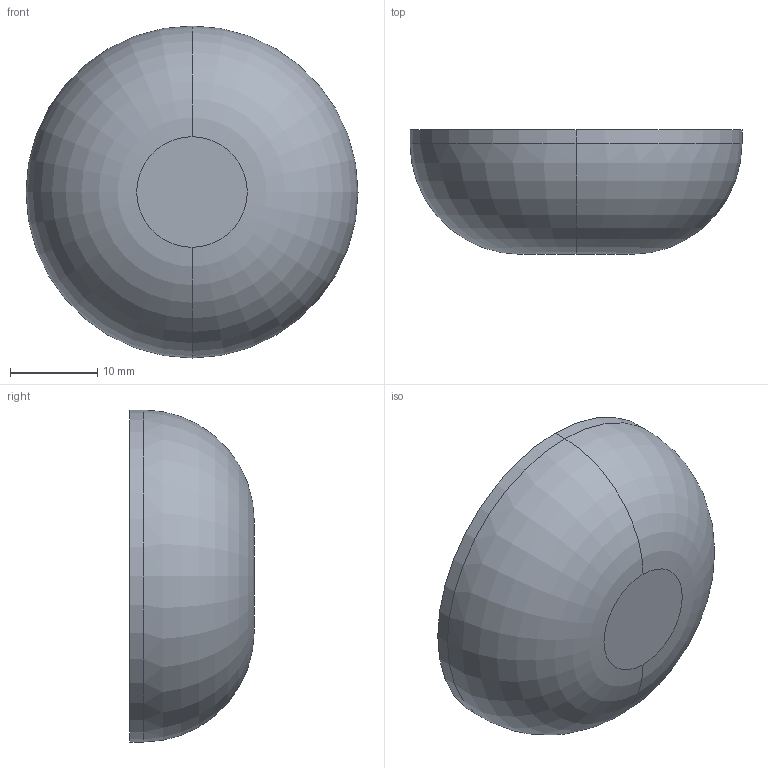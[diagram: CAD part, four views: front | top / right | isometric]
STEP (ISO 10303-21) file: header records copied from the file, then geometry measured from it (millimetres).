
FILE_DESCRIPTION (( 'STEP AP214' ), '1' );
FILE_NAME ('E16W 1.5 REV4.STEP', '2025-07-10T15:49:20', ( '' ), ( '' ), 'SwSTEP 2.0', 'SolidWorks 2022', '' );
FILE_SCHEMA (( 'AUTOMOTIVE_DESIGN' ));
Length unit declared in the file: inch
Products named in the file (1): E16W 1.5 REV4
Bounding box: 38.1 x 14.27 x 38.1 mm (x, y, z)
Volume: 3200.6 mm3; surface area: 4071.9 mm2
Topology: 1 solids, 1 shells, 11 faces, 20 edges, 12 vertices
Faces by surface type: torus 4, cylinder 4, plane 3
Entity records: 318 total; most frequent: DIRECTION 60, CARTESIAN_POINT 44, ORIENTED_EDGE 40, AXIS2_PLACEMENT_3D 28, EDGE_CURVE 20, CIRCLE 16, VERTEX_POINT 12, EDGE_LOOP 12
